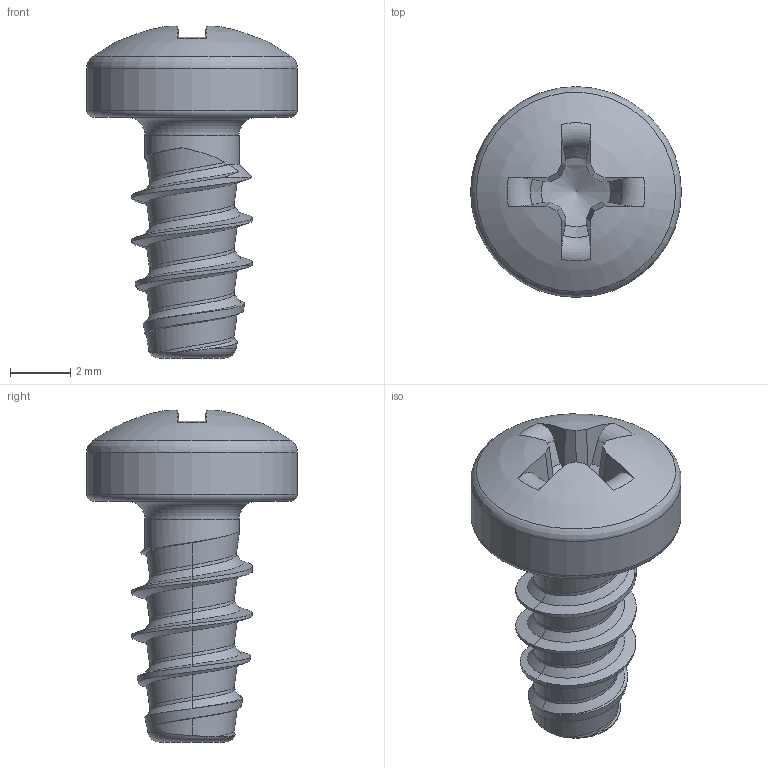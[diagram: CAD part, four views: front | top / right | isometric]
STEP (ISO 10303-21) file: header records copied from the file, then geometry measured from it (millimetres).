
FILE_DESCRIPTION(/* description */ (''),/* implementation_level */ '2;1');
FILE_NAME(/* name */ 'KN6032-STSplus-40x8-H2.step',/* time_stamp */ '2017-10-10T15:10:34+02:00',/* author */ (''),/* organization */ (''),/* preprocessor_version */ 'ST-DEVELOPER v16',/* originating_system */ 'SIEMENS PLM Software NX 10.0',/* authorisation */ '');
FILE_SCHEMA (('AUTOMOTIVE_DESIGN { 1 0 10303 214 3 1 1 1 }'));
Length unit declared in the file: millimetre
Products named in the file (1): KN6032-STSplus-40x8-H2
Bounding box: 7 x 7 x 11.03 mm (x, y, z)
Volume: 149.2 mm3; surface area: 229.2 mm2
Topology: 1 solids, 1 shells, 64 faces, 166 edges, 104 vertices
Faces by surface type: bspline 27, plane 18, torus 8, cone 7, cylinder 3, sphere 1
Full cylindrical faces by diameter (mm): 3.13 x1, 7 x1
Entity records: 3302 total; most frequent: CARTESIAN_POINT 1992, ORIENTED_EDGE 304, DIRECTION 189, EDGE_CURVE 152, VERTEX_POINT 99, B_SPLINE_CURVE_WITH_KNOTS 78, AXIS2_PLACEMENT_3D 77, EDGE_LOOP 72
